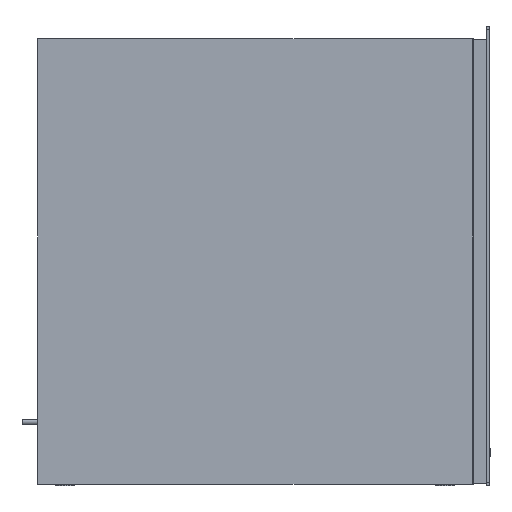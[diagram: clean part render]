
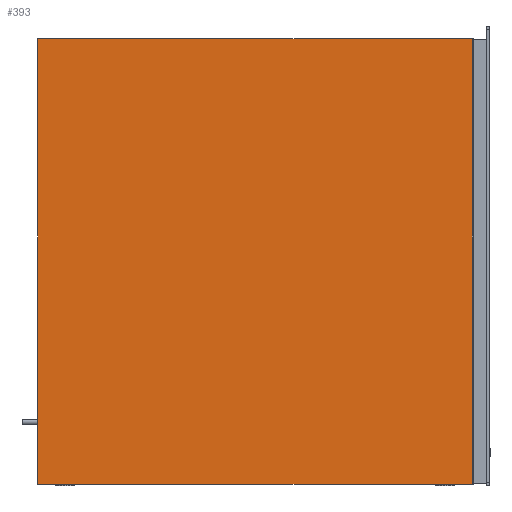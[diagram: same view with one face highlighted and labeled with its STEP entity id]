
A CAD part, front view. The second image highlights one B-rep face of the part: STEP entity #393.
In plain terms, the highlighted planar face has unit normal (0, -1, 0).
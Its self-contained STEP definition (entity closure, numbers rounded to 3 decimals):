
#393=ADVANCED_FACE('',(#587),#483,.F.);
#483=PLANE('',#2182);
#587=FACE_OUTER_BOUND('',#714,.T.);
#714=EDGE_LOOP('',(#1153,#1154,#1155,#1156));
#1153=ORIENTED_EDGE('',*,*,#1617,.T.);
#1154=ORIENTED_EDGE('',*,*,#1618,.F.);
#1155=ORIENTED_EDGE('',*,*,#1619,.F.);
#1156=ORIENTED_EDGE('',*,*,#1614,.T.);
#1380=VERTEX_POINT('',#3466);
#1381=VERTEX_POINT('',#3468);
#1383=VERTEX_POINT('',#3474);
#1384=VERTEX_POINT('',#3476);
#1614=EDGE_CURVE('',#1381,#1380,#1796,.T.);
#1617=EDGE_CURVE('',#1380,#1383,#1799,.T.);
#1618=EDGE_CURVE('',#1384,#1383,#1800,.T.);
#1619=EDGE_CURVE('',#1381,#1384,#1801,.T.);
#1796=LINE('',#3467,#1980);
#1799=LINE('',#3473,#1983);
#1800=LINE('',#3475,#1984);
#1801=LINE('',#3477,#1985);
#1980=VECTOR('',#2619,1.);
#1983=VECTOR('',#2624,1.);
#1984=VECTOR('',#2625,1.);
#1985=VECTOR('',#2626,1.);
#2182=AXIS2_PLACEMENT_3D('',#3478,#2627,#2628);
#2619=DIRECTION('',(0.,0.,-1.));
#2624=DIRECTION('',(1.,0.,0.));
#2625=DIRECTION('',(0.,0.,-1.));
#2626=DIRECTION('',(1.,0.,0.));
#2627=DIRECTION('',(0.,1.,0.));
#2628=DIRECTION('',(-1.,0.,0.));
#3466=CARTESIAN_POINT('',(-278.,-271.,0.));
#3467=CARTESIAN_POINT('',(-278.,-271.,570.4));
#3468=CARTESIAN_POINT('',(-278.,-271.,570.4));
#3473=CARTESIAN_POINT('',(-278.,-271.,0.));
#3474=CARTESIAN_POINT('',(278.,-271.,0.));
#3475=CARTESIAN_POINT('',(278.,-271.,570.4));
#3476=CARTESIAN_POINT('',(278.,-271.,570.4));
#3477=CARTESIAN_POINT('',(-278.,-271.,570.4));
#3478=CARTESIAN_POINT('',(-278.,-271.,570.4));
